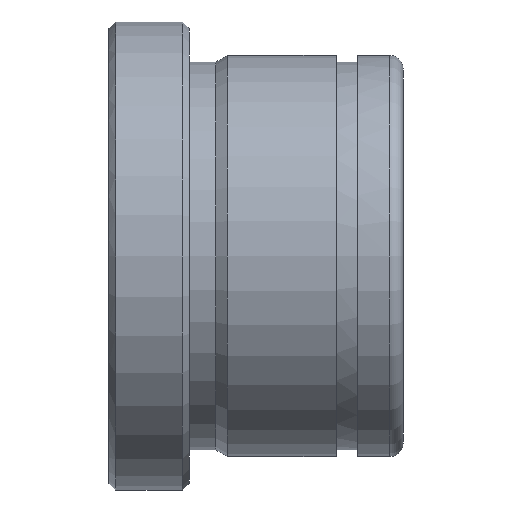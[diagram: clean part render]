
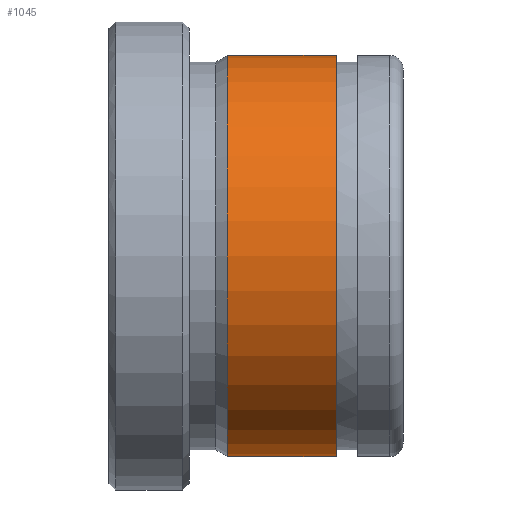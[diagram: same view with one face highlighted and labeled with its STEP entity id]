
A CAD part, front view. The second image highlights one B-rep face of the part: STEP entity #1045.
In plain terms, the highlighted cylindrical face has radius 15 mm (diameter 30 mm), a partial arc.
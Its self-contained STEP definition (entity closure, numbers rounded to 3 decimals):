
#851=CARTESIAN_POINT('Vertex',(8.866,0.,-15.)) ;
#858=CARTESIAN_POINT('Vertex',(8.866,0.,15.)) ;
#887=CARTESIAN_POINT('Axis2P3D Location',(8.866,0.,0.)) ;
#891=CARTESIAN_POINT('Vertex',(8.866,-15.,0.)) ;
#894=CARTESIAN_POINT('Axis2P3D Location',(8.866,0.,0.)) ;
#985=CARTESIAN_POINT('Line Origine',(44.,0.,15.)) ;
#989=CARTESIAN_POINT('Vertex',(17.,0.,15.)) ;
#1003=CARTESIAN_POINT('Vertex',(17.,0.,-15.)) ;
#1006=CARTESIAN_POINT('Line Origine',(44.,0.,-15.)) ;
#1020=CARTESIAN_POINT('Axis2P3D Location',(44.,0.,0.)) ;
#1025=CARTESIAN_POINT('Axis2P3D Location',(17.,0.,0.)) ;
#1029=CARTESIAN_POINT('Vertex',(17.,-15.,0.)) ;
#1032=CARTESIAN_POINT('Axis2P3D Location',(17.,0.,0.)) ;
#888=DIRECTION('Axis2P3D Direction',(1.,0.,-0.)) ;
#895=DIRECTION('Axis2P3D Direction',(1.,0.,-0.)) ;
#986=DIRECTION('Vector Direction',(-1.,0.,0.)) ;
#1007=DIRECTION('Vector Direction',(-1.,0.,0.)) ;
#1021=DIRECTION('Axis2P3D Direction',(-1.,-0.,-0.)) ;
#1022=DIRECTION('Axis2P3D XDirection',(0.,0.,-1.)) ;
#1026=DIRECTION('Axis2P3D Direction',(-1.,-0.,-0.)) ;
#1033=DIRECTION('Axis2P3D Direction',(-1.,-0.,-0.)) ;
#889=AXIS2_PLACEMENT_3D('Circle Axis2P3D',#887,#888,$) ;
#896=AXIS2_PLACEMENT_3D('Circle Axis2P3D',#894,#895,$) ;
#1023=AXIS2_PLACEMENT_3D('Cylinder Axis2P3D',#1020,#1021,#1022) ;
#1027=AXIS2_PLACEMENT_3D('Circle Axis2P3D',#1025,#1026,$) ;
#1034=AXIS2_PLACEMENT_3D('Circle Axis2P3D',#1032,#1033,$) ;
#1038=ORIENTED_EDGE('',*,*,#1010,.T.) ;
#1039=ORIENTED_EDGE('',*,*,#1031,.F.) ;
#1040=ORIENTED_EDGE('',*,*,#1036,.F.) ;
#1041=ORIENTED_EDGE('',*,*,#991,.T.) ;
#1042=ORIENTED_EDGE('',*,*,#898,.T.) ;
#1043=ORIENTED_EDGE('',*,*,#893,.T.) ;
#987=VECTOR('Line Direction',#986,1.) ;
#1008=VECTOR('Line Direction',#1007,1.) ;
#1045=ADVANCED_FACE('553-22X22',(#1044),#1024,.T.) ;
#890=CIRCLE('generated circle',#889,15.) ;
#897=CIRCLE('generated circle',#896,15.) ;
#1028=CIRCLE('generated circle',#1027,15.) ;
#1035=CIRCLE('generated circle',#1034,15.) ;
#1024=CYLINDRICAL_SURFACE('generated cylinder',#1023,15.) ;
#893=EDGE_CURVE('',#892,#852,#890,.T.) ;
#898=EDGE_CURVE('',#859,#892,#897,.T.) ;
#991=EDGE_CURVE('',#990,#859,#988,.T.) ;
#1010=EDGE_CURVE('',#852,#1004,#1009,.F.) ;
#1031=EDGE_CURVE('',#1030,#1004,#1028,.F.) ;
#1036=EDGE_CURVE('',#990,#1030,#1035,.F.) ;
#1037=EDGE_LOOP('',(#1038,#1039,#1040,#1041,#1042,#1043)) ;
#1044=FACE_OUTER_BOUND('',#1037,.T.) ;
#988=LINE('Line',#985,#987) ;
#1009=LINE('Line',#1006,#1008) ;
#852=VERTEX_POINT('',#851) ;
#859=VERTEX_POINT('',#858) ;
#892=VERTEX_POINT('',#891) ;
#990=VERTEX_POINT('',#989) ;
#1004=VERTEX_POINT('',#1003) ;
#1030=VERTEX_POINT('',#1029) ;
